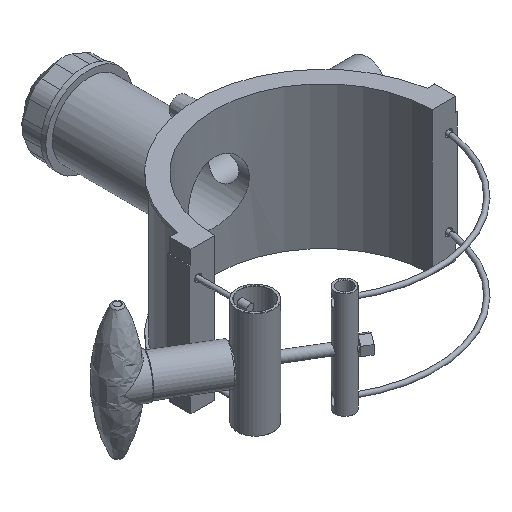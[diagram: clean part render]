
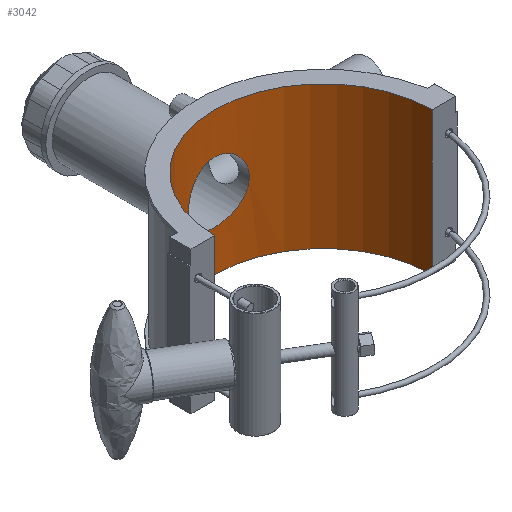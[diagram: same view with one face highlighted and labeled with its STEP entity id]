
A CAD part, isometric view. The second image highlights one B-rep face of the part: STEP entity #3042.
In plain terms, the highlighted cylindrical face has radius 90 mm (diameter 180 mm), a partial arc.
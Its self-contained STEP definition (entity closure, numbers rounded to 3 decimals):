
#60=B_SPLINE_CURVE_WITH_KNOTS('',3,(#4452,#4453,#4454,#4455,#4456,#4457,
#4458,#4459,#4460,#4461,#4462,#4463,#4464,#4465,#4466,#4467,#4468,#4469,
#4470,#4471,#4472,#4473,#4474,#4475,#4476,#4477,#4478,#4479,#4480,#4481,
#4482,#4483,#4484,#4485,#4486,#4487,#4488,#4489,#4490,#4491,#4492,#4493,
#4494,#4495,#4496,#4497,#4498,#4499,#4500,#4501),.UNSPECIFIED.,.F.,.F.,
(4,2,2,2,2,2,2,2,2,2,2,2,2,2,2,2,2,2,2,2,2,2,2,2,4),(0.,0.477,
0.955,1.432,1.91,2.387,2.864,
3.342,3.819,4.296,4.774,5.251,
5.728,6.206,6.683,7.161,7.638,
8.116,8.593,9.071,9.548,10.025,
10.503,10.98,11.457),.UNSPECIFIED.);
#61=B_SPLINE_CURVE_WITH_KNOTS('',3,(#4502,#4503,#4504,#4505,#4506,#4507,
#4508,#4509,#4510,#4511,#4512,#4513,#4514,#4515,#4516,#4517,#4518,#4519),
 .UNSPECIFIED.,.F.,.F.,(4,2,2,2,2,2,2,2,4),(11.457,11.935,
12.412,12.889,13.367,13.844,14.322,
14.799,15.276),.UNSPECIFIED.);
#172=FACE_BOUND('',#589,.T.);
#392=FACE_OUTER_BOUND('',#588,.T.);
#588=EDGE_LOOP('',(#2527,#2528,#2529,#2530));
#589=EDGE_LOOP('',(#2531,#2532));
#778=CIRCLE('',#3330,90.);
#779=CIRCLE('',#3332,90.);
#979=LINE('',#5691,#1178);
#984=LINE('',#5700,#1183);
#1178=VECTOR('',#3982,10.);
#1183=VECTOR('',#3989,10.);
#1275=VERTEX_POINT('',#4449);
#1276=VERTEX_POINT('',#4451);
#1417=VERTEX_POINT('',#5688);
#1418=VERTEX_POINT('',#5690);
#1420=VERTEX_POINT('',#5696);
#1421=VERTEX_POINT('',#5698);
#1589=EDGE_CURVE('',#1276,#1275,#60,.T.);
#1590=EDGE_CURVE('',#1275,#1276,#61,.T.);
#1806=EDGE_CURVE('',#1418,#1417,#979,.T.);
#1811=EDGE_CURVE('',#1420,#1421,#984,.T.);
#1813=EDGE_CURVE('',#1420,#1417,#778,.T.);
#1814=EDGE_CURVE('',#1418,#1421,#779,.T.);
#2527=ORIENTED_EDGE('',*,*,#1811,.T.);
#2528=ORIENTED_EDGE('',*,*,#1814,.F.);
#2529=ORIENTED_EDGE('',*,*,#1806,.T.);
#2530=ORIENTED_EDGE('',*,*,#1813,.F.);
#2531=ORIENTED_EDGE('',*,*,#1589,.T.);
#2532=ORIENTED_EDGE('',*,*,#1590,.T.);
#2912=CYLINDRICAL_SURFACE('',#3331,90.);
#3042=ADVANCED_FACE('',(#392,#172),#2912,.F.);
#3330=AXIS2_PLACEMENT_3D('',#5704,#3995,#3996);
#3331=AXIS2_PLACEMENT_3D('',#5705,#3997,#3998);
#3332=AXIS2_PLACEMENT_3D('',#5706,#3999,#4000);
#3982=DIRECTION('',(0.,0.,1.));
#3989=DIRECTION('',(0.,0.,-1.));
#3995=DIRECTION('center_axis',(0.,0.,-1.));
#3996=DIRECTION('ref_axis',(1.,0.,0.));
#3997=DIRECTION('center_axis',(0.,0.,1.));
#3998=DIRECTION('ref_axis',(1.,0.,0.));
#3999=DIRECTION('center_axis',(0.,0.,1.));
#4000=DIRECTION('ref_axis',(1.,0.,0.));
#4449=CARTESIAN_POINT('',(0.,90.,-25.2));
#4451=CARTESIAN_POINT('',(-25.2,86.4,0.));
#4452=CARTESIAN_POINT('Ctrl Pts',(-25.2,86.4,0.));
#4453=CARTESIAN_POINT('Ctrl Pts',(-25.2,86.4,1.591));
#4454=CARTESIAN_POINT('Ctrl Pts',(-25.047,86.445,3.234));
#4455=CARTESIAN_POINT('Ctrl Pts',(-24.405,86.629,6.497));
#4456=CARTESIAN_POINT('Ctrl Pts',(-23.916,86.767,8.116));
#4457=CARTESIAN_POINT('Ctrl Pts',(-22.628,87.112,11.218));
#4458=CARTESIAN_POINT('Ctrl Pts',(-21.827,87.318,12.703));
#4459=CARTESIAN_POINT('Ctrl Pts',(-19.98,87.759,15.446));
#4460=CARTESIAN_POINT('Ctrl Pts',(-18.933,87.993,16.705));
#4461=CARTESIAN_POINT('Ctrl Pts',(-16.705,88.443,18.933));
#4462=CARTESIAN_POINT('Ctrl Pts',(-15.447,88.675,19.979));
#4463=CARTESIAN_POINT('Ctrl Pts',(-12.703,89.11,21.827));
#4464=CARTESIAN_POINT('Ctrl Pts',(-11.218,89.312,22.628));
#4465=CARTESIAN_POINT('Ctrl Pts',(-8.116,89.647,23.916));
#4466=CARTESIAN_POINT('Ctrl Pts',(-6.496,89.78,24.405));
#4467=CARTESIAN_POINT('Ctrl Pts',(-3.234,89.957,25.047));
#4468=CARTESIAN_POINT('Ctrl Pts',(-1.591,90.,25.2));
#4469=CARTESIAN_POINT('Ctrl Pts',(1.591,90.,25.2));
#4470=CARTESIAN_POINT('Ctrl Pts',(3.234,89.957,25.047));
#4471=CARTESIAN_POINT('Ctrl Pts',(6.496,89.78,24.405));
#4472=CARTESIAN_POINT('Ctrl Pts',(8.116,89.647,23.916));
#4473=CARTESIAN_POINT('Ctrl Pts',(11.218,89.312,22.628));
#4474=CARTESIAN_POINT('Ctrl Pts',(12.703,89.11,21.827));
#4475=CARTESIAN_POINT('Ctrl Pts',(15.447,88.675,19.979));
#4476=CARTESIAN_POINT('Ctrl Pts',(16.705,88.443,18.933));
#4477=CARTESIAN_POINT('Ctrl Pts',(18.933,87.993,16.705));
#4478=CARTESIAN_POINT('Ctrl Pts',(19.98,87.759,15.446));
#4479=CARTESIAN_POINT('Ctrl Pts',(21.827,87.318,12.703));
#4480=CARTESIAN_POINT('Ctrl Pts',(22.628,87.112,11.218));
#4481=CARTESIAN_POINT('Ctrl Pts',(23.916,86.767,8.116));
#4482=CARTESIAN_POINT('Ctrl Pts',(24.405,86.629,6.497));
#4483=CARTESIAN_POINT('Ctrl Pts',(25.047,86.445,3.234));
#4484=CARTESIAN_POINT('Ctrl Pts',(25.2,86.4,1.591));
#4485=CARTESIAN_POINT('Ctrl Pts',(25.2,86.4,-1.591));
#4486=CARTESIAN_POINT('Ctrl Pts',(25.047,86.445,-3.234));
#4487=CARTESIAN_POINT('Ctrl Pts',(24.405,86.629,-6.497));
#4488=CARTESIAN_POINT('Ctrl Pts',(23.916,86.767,-8.116));
#4489=CARTESIAN_POINT('Ctrl Pts',(22.628,87.112,-11.218));
#4490=CARTESIAN_POINT('Ctrl Pts',(21.827,87.318,-12.703));
#4491=CARTESIAN_POINT('Ctrl Pts',(19.98,87.759,-15.446));
#4492=CARTESIAN_POINT('Ctrl Pts',(18.933,87.993,-16.705));
#4493=CARTESIAN_POINT('Ctrl Pts',(16.705,88.443,-18.933));
#4494=CARTESIAN_POINT('Ctrl Pts',(15.447,88.675,-19.979));
#4495=CARTESIAN_POINT('Ctrl Pts',(12.703,89.11,-21.827));
#4496=CARTESIAN_POINT('Ctrl Pts',(11.218,89.312,-22.628));
#4497=CARTESIAN_POINT('Ctrl Pts',(8.116,89.647,-23.916));
#4498=CARTESIAN_POINT('Ctrl Pts',(6.496,89.78,-24.405));
#4499=CARTESIAN_POINT('Ctrl Pts',(3.234,89.957,-25.047));
#4500=CARTESIAN_POINT('Ctrl Pts',(1.591,90.,-25.2));
#4501=CARTESIAN_POINT('Ctrl Pts',(0.,90.,-25.2));
#4502=CARTESIAN_POINT('Ctrl Pts',(0.,90.,-25.2));
#4503=CARTESIAN_POINT('Ctrl Pts',(-1.591,90.,-25.2));
#4504=CARTESIAN_POINT('Ctrl Pts',(-3.234,89.957,-25.047));
#4505=CARTESIAN_POINT('Ctrl Pts',(-6.496,89.78,-24.405));
#4506=CARTESIAN_POINT('Ctrl Pts',(-8.116,89.647,-23.916));
#4507=CARTESIAN_POINT('Ctrl Pts',(-11.218,89.312,-22.628));
#4508=CARTESIAN_POINT('Ctrl Pts',(-12.703,89.11,-21.827));
#4509=CARTESIAN_POINT('Ctrl Pts',(-15.447,88.675,-19.979));
#4510=CARTESIAN_POINT('Ctrl Pts',(-16.705,88.443,-18.933));
#4511=CARTESIAN_POINT('Ctrl Pts',(-18.933,87.993,-16.705));
#4512=CARTESIAN_POINT('Ctrl Pts',(-19.98,87.759,-15.446));
#4513=CARTESIAN_POINT('Ctrl Pts',(-21.827,87.318,-12.703));
#4514=CARTESIAN_POINT('Ctrl Pts',(-22.628,87.112,-11.218));
#4515=CARTESIAN_POINT('Ctrl Pts',(-23.916,86.767,-8.116));
#4516=CARTESIAN_POINT('Ctrl Pts',(-24.405,86.629,-6.497));
#4517=CARTESIAN_POINT('Ctrl Pts',(-25.047,86.445,-3.234));
#4518=CARTESIAN_POINT('Ctrl Pts',(-25.2,86.4,-1.591));
#4519=CARTESIAN_POINT('Ctrl Pts',(-25.2,86.4,0.));
#5688=CARTESIAN_POINT('',(90.,0.05,59.));
#5690=CARTESIAN_POINT('',(90.,0.05,-59.));
#5691=CARTESIAN_POINT('',(90.,0.05,0.));
#5696=CARTESIAN_POINT('',(-90.,0.05,59.));
#5698=CARTESIAN_POINT('',(-90.,0.05,-59.));
#5700=CARTESIAN_POINT('',(-90.,0.05,0.));
#5704=CARTESIAN_POINT('Origin',(0.,0.,59.));
#5705=CARTESIAN_POINT('Origin',(0.,0.,0.));
#5706=CARTESIAN_POINT('Origin',(0.,0.,-59.));
